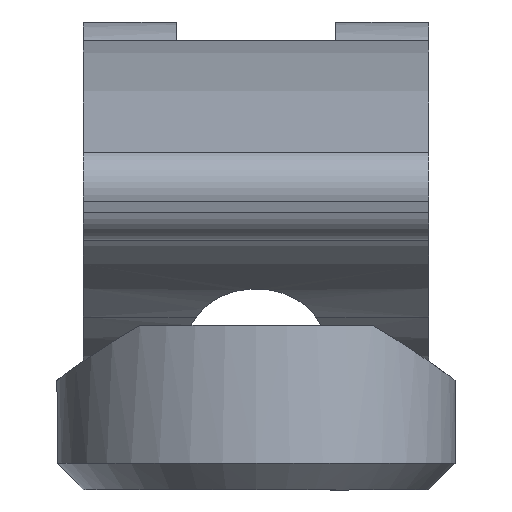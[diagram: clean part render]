
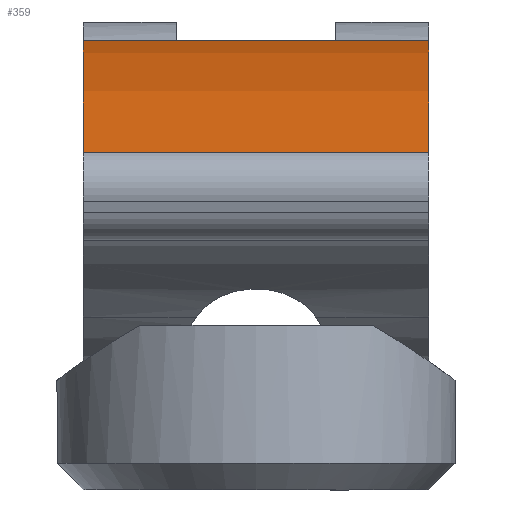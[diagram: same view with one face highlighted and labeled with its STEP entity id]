
A CAD part, left-side view. The second image highlights one B-rep face of the part: STEP entity #359.
In plain terms, the highlighted cylindrical face has radius 48.278 mm (diameter 96.556 mm), a partial arc.
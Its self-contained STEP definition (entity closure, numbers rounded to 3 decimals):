
#359=ADVANCED_FACE('',(#600),#602,.T.);
#600=FACE_BOUND('',#601,.T.);
#601=EDGE_LOOP('',(#749,#750,#751,#752));
#602=CYLINDRICAL_SURFACE('',#603,48.278);
#603=AXIS2_PLACEMENT_3D('',#604,#605,#606);
#604=CARTESIAN_POINT('',(-32.129,0.,-42.629));
#605=DIRECTION('',(0.,1.,0.));
#606=DIRECTION('',(-0.392,0.,0.92));
#749=ORIENTED_EDGE('',*,*,#816,.T.);
#750=ORIENTED_EDGE('',*,*,#814,.T.);
#751=ORIENTED_EDGE('',*,*,#810,.F.);
#752=ORIENTED_EDGE('',*,*,#825,.F.);
#810=EDGE_CURVE('',#929,#931,#932,.T.);
#814=EDGE_CURVE('',#935,#931,#937,.T.);
#816=EDGE_CURVE('',#940,#935,#941,.T.);
#825=EDGE_CURVE('',#940,#929,#953,.T.);
#929=VERTEX_POINT('',#1965);
#931=VERTEX_POINT('',#1970);
#932=CIRCLE('',#1971,48.278);
#935=VERTEX_POINT('',#1983);
#937=LINE('',#1988,#1989);
#940=VERTEX_POINT('',#1996);
#941=CIRCLE('',#1997,48.278);
#953=LINE('',#2031,#2032);
#1965=CARTESIAN_POINT('',(-51.068,13.,1.78));
#1970=CARTESIAN_POINT('',(-18.,13.,3.536));
#1971=AXIS2_PLACEMENT_3D('',#1972,#1973,#1974);
#1972=CARTESIAN_POINT('',(-32.129,13.,-42.629));
#1973=DIRECTION('',(0.,1.,0.));
#1974=DIRECTION('',(-0.392,0.,0.92));
#1983=CARTESIAN_POINT('',(-18.,0.,3.536));
#1988=CARTESIAN_POINT('',(-18.,0.,3.536));
#1989=VECTOR('',#1990,1.);
#1990=DIRECTION('',(0.,1.,0.));
#1996=CARTESIAN_POINT('',(-51.068,0.,1.78));
#1997=AXIS2_PLACEMENT_3D('',#1998,#1999,#2000);
#1998=CARTESIAN_POINT('',(-32.129,0.,-42.629));
#1999=DIRECTION('',(0.,1.,0.));
#2000=DIRECTION('',(-0.392,0.,0.92));
#2031=CARTESIAN_POINT('',(-51.068,0.,1.78));
#2032=VECTOR('',#2033,1.);
#2033=DIRECTION('',(0.,1.,0.));
